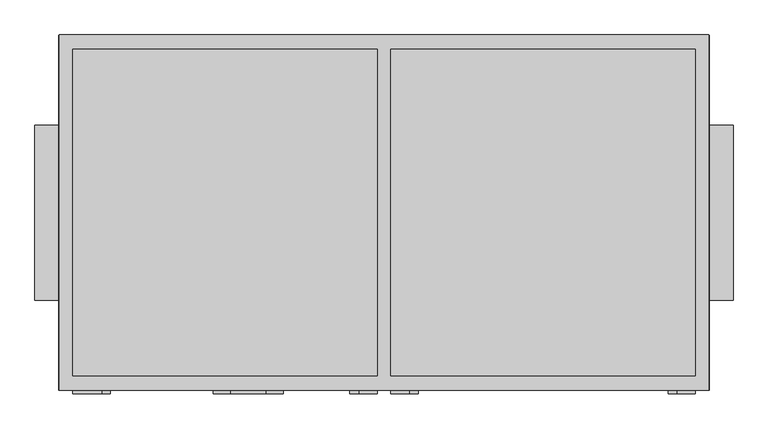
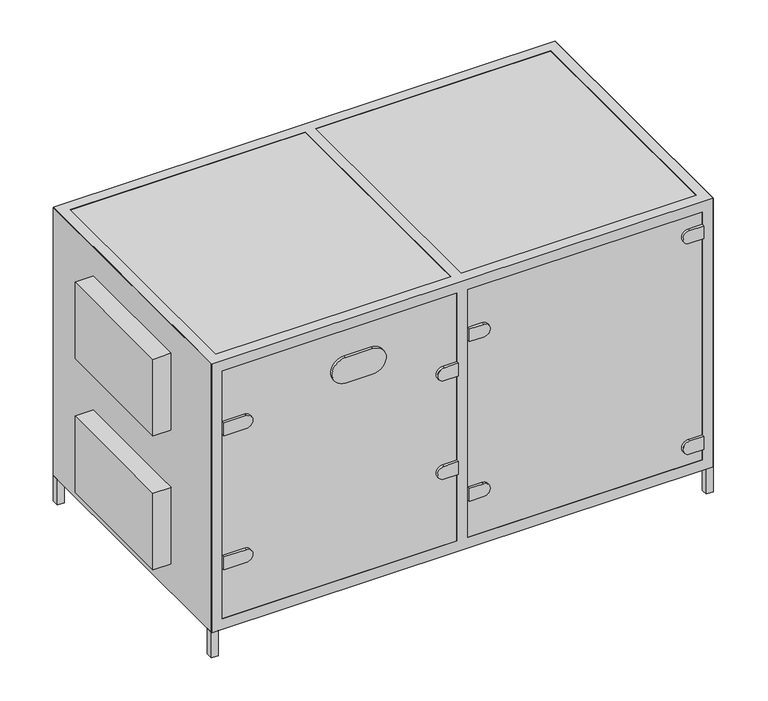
"""IFC4 building model written with IfcOpenShell, lengths in millimetres: proxy geometry, AVS 2200...3800-S-RC(RG)-R : AVS 3800-S-RG-R."""

from ifc_helpers import new_model, si_unit, point, frame, frame_2d, origin, origin_with_axes, place, context, project, spatial, polyline, circle_curve, trimmed, segment, composite_curve, outline, extrude, faceted_brep, source, transform, mapped, element, save


def mechanical_equipment_a03e5735(model_context):
    return source(origin(), model_context, "Body", "SolidModel", [
        extrude(outline(polyline([(905.0, 507.0), (930.0, 507.0), (930.0, 482.0), (905.0, 482.0), (905.0, 507.0)])), origin_with_axes(), (0.0, 0.0, 1.0), 100.0),
        extrude(outline(polyline([(905.0, -507.0), (905.0, -482.0), (930.0, -482.0), (930.0, -507.0), (905.0, -507.0)])), origin_with_axes(), (0.0, 0.0, 1.0), 100.0),
        extrude(outline(polyline([(-930.0, 482.0), (-930.0, 507.0), (-905.0, 507.0), (-905.0, 482.0), (-930.0, 482.0)])), origin_with_axes(), (0.0, 0.0, 1.0), 100.0),
        extrude(outline(polyline([(-930.0, -482.0), (-905.0, -482.0), (-905.0, -507.0), (-930.0, -507.0), (-930.0, -482.0)])), origin_with_axes(), (0.0, 0.0, 1.0), 100.0),
        faceted_brep([(929.0, 508.0, 1153.0), (-929.0, 508.0, 1153.0), (-929.0, -508.0, 1153.0), (929.0, -508.0, 1153.0), (890.0, 467.0, 1153.0), (890.0, -467.0, 1153.0), (20.0, -467.0, 1153.0), (20.0, 467.0, 1153.0), (-890.0, 467.0, 1153.0), (-20.0, 467.0, 1153.0), (-20.0, -467.0, 1153.0), (-890.0, -467.0, 1153.0), (929.0, 508.0, 99.0), (929.0, -508.0, 99.0), (-929.0, -508.0, 99.0), (-929.0, 508.0, 99.0), (890.0, -467.0, 99.0), (890.0, 467.0, 99.0), (20.0, 467.0, 99.0), (20.0, -467.0, 99.0), (-20.0, 467.0, 99.0), (-890.0, 467.0, 99.0), (-890.0, -467.0, 99.0), (-20.0, -467.0, 99.0), (-20.0, 508.0, 1112.0), (-890.0, 508.0, 1112.0), (-890.0, 508.0, 140.0), (-20.0, 508.0, 140.0), (890.0, 508.0, 140.0), (890.0, 508.0, 1112.0), (20.0, 508.0, 1112.0), (20.0, 508.0, 140.0), (-929.0, -467.0, 1112.0), (-929.0, -467.0, 140.0), (-929.0, 467.0, 140.0), (-929.0, 467.0, 1112.0), (-890.0, -508.0, 1112.0), (-20.0, -508.0, 1112.0), (-20.0, -508.0, 140.0), (-890.0, -508.0, 140.0), (890.0, -508.0, 1112.0), (890.0, -508.0, 140.0), (20.0, -508.0, 140.0), (20.0, -508.0, 1112.0), (929.0, -467.0, 140.0), (929.0, -467.0, 1112.0), (929.0, 467.0, 1112.0), (929.0, 467.0, 140.0), (-890.0, 467.0, 1112.0), (-20.0, 467.0, 1112.0), (-20.0, 467.0, 140.0), (-890.0, 467.0, 140.0), (-20.0, -467.0, 1112.0), (-890.0, -467.0, 1112.0), (-890.0, -467.0, 140.0), (-20.0, -467.0, 140.0), (890.0, 467.0, 1112.0), (890.0, -467.0, 1112.0), (890.0, -467.0, 140.0), (890.0, 467.0, 140.0), (20.0, 467.0, 1112.0), (20.0, -467.0, 1112.0), (20.0, -467.0, 140.0), (20.0, 467.0, 140.0)], [[[0, 1, 2, 3], [4, 5, 6, 7], [8, 9, 10, 11]], [[12, 13, 14, 15], [16, 17, 18, 19], [20, 21, 22, 23]], [[1, 0, 12, 15], [24, 25, 26, 27], [28, 29, 30, 31]], [[2, 1, 15, 14], [32, 33, 34, 35]], [[3, 2, 14, 13], [36, 37, 38, 39], [40, 41, 42, 43]], [[0, 3, 13, 12], [44, 45, 46, 47]], [[9, 8, 48, 49]], [[21, 20, 50, 51]], [[11, 10, 52, 53]], [[23, 22, 54, 55]], [[5, 4, 56, 57]], [[17, 16, 58, 59]], [[40, 57, 58, 41]], [[56, 29, 28, 59]], [[35, 48, 53, 32]], [[45, 57, 56, 46]], [[49, 60, 61, 52]], [[51, 34, 33, 54]], [[47, 59, 58, 44]], [[55, 62, 63, 50]], [[36, 53, 52, 37]], [[24, 49, 48, 25]], [[54, 39, 38, 55]], [[50, 27, 26, 51]], [[32, 53, 54, 33]], [[52, 61, 62, 55]], [[44, 58, 57, 45]], [[48, 35, 34, 51]], [[60, 49, 50, 63]], [[59, 47, 46, 56]], [[8, 11, 53, 48]], [[22, 21, 51, 54]], [[53, 36, 39, 54]], [[25, 48, 51, 26]], [[10, 9, 49, 52]], [[20, 23, 55, 50]], [[37, 52, 55, 38]], [[49, 24, 27, 50]], [[4, 7, 60, 56]], [[18, 17, 59, 63]], [[7, 6, 61, 60]], [[19, 18, 63, 62]], [[30, 60, 63, 31]], [[61, 43, 42, 62]], [[57, 40, 43, 61]], [[29, 56, 60, 30]], [[41, 58, 62, 42]], [[59, 28, 31, 63]], [[6, 5, 57, 61]], [[16, 19, 62, 58]]]),
        extrude(outline(polyline([(-930.0, 507.0), (930.0, 507.0), (930.0, -507.0), (-930.0, -507.0), (-930.0, 507.0)])), frame((0.0, 0.0, 100.0), z_axis=(0.0, 0.0, 1.0), x_axis=(1.0, 0.0, 0.0)), (0.0, 0.0, 1.0), 1052.0),
        extrude(outline(composite_curve([segment(polyline([(914.0, -807.2895396), (914.0, -890.0), (864.0, -890.0), (864.0, -807.2895396)]), True, "CONTINUOUS"), segment(trimmed(circle_curve(frame_2d((889.0, -807.2895396)), 25.0), [point((864.0, -807.2895396))], [point((914.0, -807.2895396))], False, "CARTESIAN"), True, "CONTINUOUS")], self_intersect=False)), frame((0.0, -518.0, 0.0), z_axis=(0.0, 1.0, 0.0), x_axis=(0.0, 0.0, 1.0)), (0.0, 0.0, 1.0), 11.0),
        extrude(outline(composite_curve([segment(polyline([(388.0, -807.2895396), (388.0, -890.0), (338.0, -890.0), (338.0, -807.2895396)]), True, "CONTINUOUS"), segment(trimmed(circle_curve(frame_2d((363.0, -807.2895396)), 25.0), [point((338.0, -807.2895396))], [point((388.0, -807.2895396))], False, "CARTESIAN"), True, "CONTINUOUS")], self_intersect=False)), frame((0.0, -518.0, 0.0), z_axis=(0.0, 1.0, 0.0), x_axis=(0.0, 0.0, 1.0)), (0.0, 0.0, 1.0), 11.0),
        extrude(outline(composite_curve([segment(trimmed(circle_curve(frame_2d((819.0, -72.7104604)), 25.0), [point((844.0, -72.7104604))], [point((794.0, -72.7104604))], False, "CARTESIAN"), True, "CONTINUOUS"), segment(polyline([(794.0, -72.7104604), (794.0, -20.0), (844.0, -20.0), (844.0, -72.7104604)]), True, "CONTINUOUS")], self_intersect=False)), frame((0.0, -518.0, 0.0), z_axis=(0.0, 1.0, 0.0), x_axis=(0.0, 0.0, 1.0)), (0.0, 0.0, 1.0), 11.0),
        extrude(outline(composite_curve([segment(polyline([(408.0, -72.7104604), (408.0, -20.0), (458.0, -20.0), (458.0, -72.7104604)]), True, "CONTINUOUS"), segment(trimmed(circle_curve(frame_2d((433.0, -72.7104604)), 25.0), [point((458.0, -72.7104604))], [point((408.0, -72.7104604))], False, "CARTESIAN"), True, "CONTINUOUS")], self_intersect=False)), frame((0.0, -518.0, 0.0), z_axis=(0.0, 1.0, 0.0), x_axis=(0.0, 0.0, 1.0)), (0.0, 0.0, 1.0), 11.0),
        extrude(outline(composite_curve([segment(trimmed(circle_curve(frame_2d((1039.0, 837.2895396)), 25.0), [point((1064.0, 837.2895396))], [point((1014.0, 837.2895396))], False, "CARTESIAN"), True, "CONTINUOUS"), segment(polyline([(1014.0, 837.2895396), (1014.0, 890.0), (1064.0, 890.0), (1064.0, 837.2895396)]), True, "CONTINUOUS")], self_intersect=False)), frame((0.0, -518.0, 0.0), z_axis=(0.0, 1.0, 0.0), x_axis=(0.0, 0.0, 1.0)), (0.0, 0.0, 1.0), 11.0),
        extrude(outline(composite_curve([segment(polyline([(188.0, 837.2895396), (188.0, 890.0), (238.0, 890.0), (238.0, 837.2895396)]), True, "CONTINUOUS"), segment(trimmed(circle_curve(frame_2d((213.0, 837.2895396)), 25.0), [point((238.0, 837.2895396))], [point((188.0, 837.2895396))], False, "CARTESIAN"), True, "CONTINUOUS")], self_intersect=False)), frame((0.0, -518.0, 0.0), z_axis=(0.0, 1.0, 0.0), x_axis=(0.0, 0.0, 1.0)), (0.0, 0.0, 1.0), 11.0),
        extrude(outline(composite_curve([segment(polyline([(964.0, 72.7104604), (964.0, 20.0), (914.0, 20.0), (914.0, 72.7104604)]), True, "CONTINUOUS"), segment(trimmed(circle_curve(frame_2d((939.0, 72.7104604)), 25.0), [point((914.0, 72.7104604))], [point((964.0, 72.7104604))], False, "CARTESIAN"), True, "CONTINUOUS")], self_intersect=False)), frame((0.0, -518.0, 0.0), z_axis=(0.0, 1.0, 0.0), x_axis=(0.0, 0.0, 1.0)), (0.0, 0.0, 1.0), 11.0),
        extrude(outline(composite_curve([segment(trimmed(circle_curve(frame_2d((313.0, 72.7104604)), 25.0), [point((288.0, 72.7104604))], [point((338.0, 72.7104604))], False, "CARTESIAN"), True, "CONTINUOUS"), segment(polyline([(338.0, 72.7104604), (338.0, 20.0), (288.0, 20.0), (288.0, 72.7104604)]), True, "CONTINUOUS")], self_intersect=False)), frame((0.0, -518.0, 0.0), z_axis=(0.0, 1.0, 0.0), x_axis=(0.0, 0.0, 1.0)), (0.0, 0.0, 1.0), 11.0),
        extrude(outline(composite_curve([segment(polyline([(1012.9531077, -338.4249776), (1012.9531077, -438.4249776)]), True, "CONTINUOUS"), segment(trimmed(circle_curve(frame_2d((962.9531077, -438.4249776)), 50.0), [point((1012.9531077, -438.4249776))], [point((912.9531077, -438.4249776))], False, "CARTESIAN"), True, "CONTINUOUS"), segment(polyline([(912.9531077, -438.4249776), (912.9531077, -338.4249776)]), True, "CONTINUOUS"), segment(trimmed(circle_curve(frame_2d((962.9531077, -338.4249776)), 50.0), [point((912.9531077, -338.4249776))], [point((1012.9531077, -338.4249776))], False, "CARTESIAN"), True, "CONTINUOUS")], self_intersect=False)), frame((0.0, -518.0, 0.0), z_axis=(0.0, 1.0, 0.0), x_axis=(0.0, 0.0, 1.0)), (0.0, 0.0, 1.0), 11.0),
        extrude(outline(polyline([(-998.0, -250.0), (-998.0, 250.0), (-930.0, 250.0), (-930.0, -250.0), (-998.0, -250.0)])), frame((0.0, 0.0, 739.0), z_axis=(0.0, 0.0, 1.0), x_axis=(1.0, 0.0, 0.0)), (0.0, 0.0, 1.0), 300.0),
        extrude(outline(polyline([(-998.0, -250.0), (-998.0, 250.0), (-930.0, 250.0), (-930.0, -250.0), (-998.0, -250.0)])), frame((0.0, 0.0, 213.0), z_axis=(0.0, 0.0, 1.0), x_axis=(1.0, 0.0, 0.0)), (0.0, 0.0, 1.0), 300.0),
        extrude(outline(polyline([(998.0, 250.0), (998.0, -250.0), (930.0, -250.0), (930.0, 250.0), (998.0, 250.0)])), frame((0.0, 0.0, 739.0), z_axis=(0.0, 0.0, 1.0), x_axis=(1.0, 0.0, 0.0)), (0.0, 0.0, 1.0), 300.0),
        extrude(outline(polyline([(998.0, 250.0), (998.0, -250.0), (930.0, -250.0), (930.0, 250.0), (998.0, 250.0)])), frame((0.0, 0.0, 213.0), z_axis=(0.0, 0.0, 1.0), x_axis=(1.0, 0.0, 0.0)), (0.0, 0.0, 1.0), 300.0),
    ])


if __name__ == "__main__":
    model = new_model("IFC4")
    model_context = context("Model", 3, world=origin())
    ifc_project = project(units=[si_unit("LENGTHUNIT", "METRE", prefix="MILLI")], contexts=[model_context])
    site = spatial("IfcSite", under=ifc_project)
    building = spatial("IfcBuilding", under=site)
    placement = place(None, origin())
    mechanical_equipment_shape = mechanical_equipment_a03e5735(model_context)
    element("IfcBuildingElementProxy", 1, Name="AVS 2200...3800-S-RC(RG)-R : AVS 3800-S-RG-R", ObjectType="AVS 2200...3800-S-RC(RG)-R : AVS 3800-S-RG-R", at=placement, inside=building, context=model_context, shape_type="MappedRepresentation", body=[
        mapped(mechanical_equipment_shape, transform((0.0, 0.0, 0.0), x_axis=(1.0, 0.0, 0.0), y_axis=(0.0, 1.0, 0.0), z_axis=(0.0, 0.0, 1.0))),
    ])
    save(model, "model.ifc")
